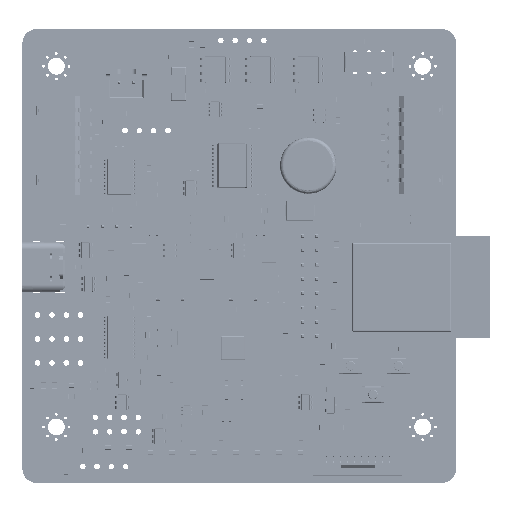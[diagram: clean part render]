
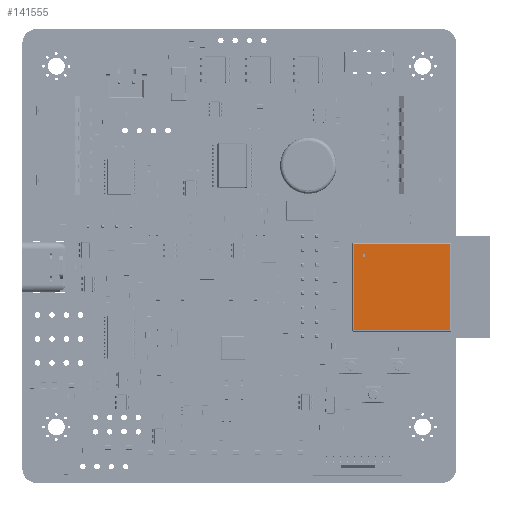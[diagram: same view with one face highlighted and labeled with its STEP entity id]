
A CAD part, top view. The second image highlights one B-rep face of the part: STEP entity #141555.
In plain terms, the highlighted planar face has unit normal (0, 0, 1).
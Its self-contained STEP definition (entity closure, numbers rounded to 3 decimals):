
#141379 = VERTEX_POINT('',#141380);
#141380 = CARTESIAN_POINT('',(-7.55,5.65,3.1));
#141387 = EDGE_CURVE('',#141379,#141388,#141390,.T.);
#141388 = VERTEX_POINT('',#141389);
#141389 = CARTESIAN_POINT('',(7.75,5.65,3.1));
#141390 = LINE('',#141391,#141392);
#141391 = CARTESIAN_POINT('',(-7.8,5.65,3.1));
#141392 = VECTOR('',#141393,1.);
#141393 = DIRECTION('',(1.,0.,0.));
#141555 = ADVANCED_FACE('',(#141556,#141581),#141592,.T.);
#141556 = FACE_BOUND('',#141557,.T.);
#141557 = EDGE_LOOP('',(#141558,#141568,#141574,#141575));
#141558 = ORIENTED_EDGE('',*,*,#141559,.F.);
#141559 = EDGE_CURVE('',#141560,#141562,#141564,.T.);
#141560 = VERTEX_POINT('',#141561);
#141561 = CARTESIAN_POINT('',(7.75,-11.45,3.1));
#141562 = VERTEX_POINT('',#141563);
#141563 = CARTESIAN_POINT('',(-7.55,-11.45,3.1));
#141564 = LINE('',#141565,#141566);
#141565 = CARTESIAN_POINT('',(8.,-11.45,3.1));
#141566 = VECTOR('',#141567,1.);
#141567 = DIRECTION('',(-1.,0.,0.));
#141568 = ORIENTED_EDGE('',*,*,#141569,.F.);
#141569 = EDGE_CURVE('',#141388,#141560,#141570,.T.);
#141570 = LINE('',#141571,#141572);
#141571 = CARTESIAN_POINT('',(7.75,5.9,3.1));
#141572 = VECTOR('',#141573,1.);
#141573 = DIRECTION('',(0.,-1.,0.));
#141574 = ORIENTED_EDGE('',*,*,#141387,.F.);
#141575 = ORIENTED_EDGE('',*,*,#141576,.F.);
#141576 = EDGE_CURVE('',#141562,#141379,#141577,.T.);
#141577 = LINE('',#141578,#141579);
#141578 = CARTESIAN_POINT('',(-7.55,-11.7,3.1));
#141579 = VECTOR('',#141580,1.);
#141580 = DIRECTION('',(0.,1.,0.));
#141581 = FACE_BOUND('',#141582,.T.);
#141582 = EDGE_LOOP('',(#141583));
#141583 = ORIENTED_EDGE('',*,*,#141584,.F.);
#141584 = EDGE_CURVE('',#141585,#141585,#141587,.T.);
#141585 = VERTEX_POINT('',#141586);
#141586 = CARTESIAN_POINT('',(-5.35,-9.6,3.1));
#141587 = CIRCLE('',#141588,0.25);
#141588 = AXIS2_PLACEMENT_3D('',#141589,#141590,#141591);
#141589 = CARTESIAN_POINT('',(-5.6,-9.6,3.1));
#141590 = DIRECTION('',(0.,0.,1.));
#141591 = DIRECTION('',(1.,0.,-0.));
#141592 = PLANE('',#141593);
#141593 = AXIS2_PLACEMENT_3D('',#141594,#141595,#141596);
#141594 = CARTESIAN_POINT('',(0.1,-2.9,3.1));
#141595 = DIRECTION('',(0.,0.,1.));
#141596 = DIRECTION('',(1.,0.,-0.));
